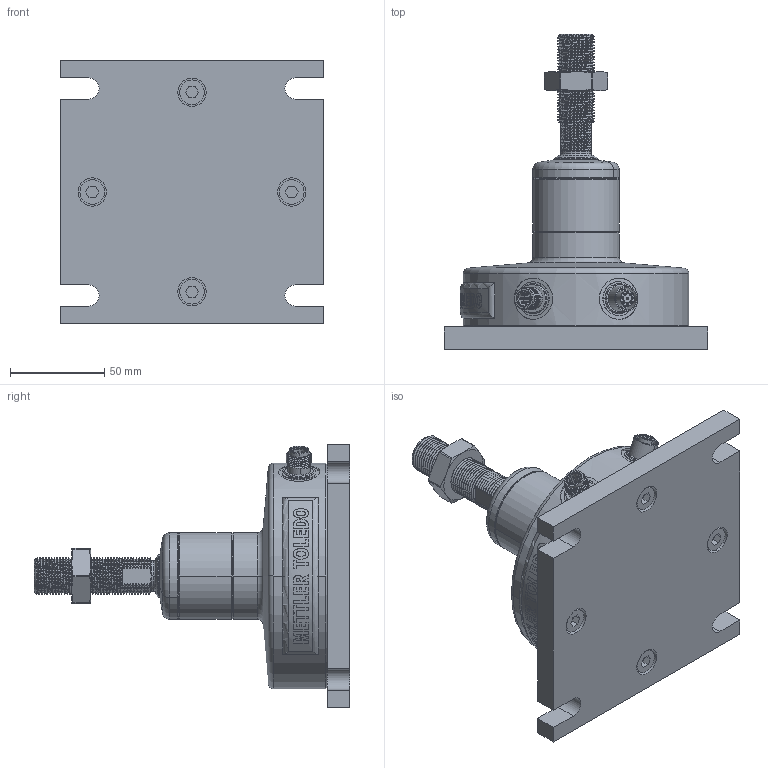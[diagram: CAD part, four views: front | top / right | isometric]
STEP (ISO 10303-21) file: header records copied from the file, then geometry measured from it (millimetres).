
FILE_DESCRIPTION((''),'2;1');
FILE_NAME('SLL210_1T_STEM','2024-07-10T21:29:07',('wang-722'),(''),'CREO PARAMETRIC BY PTC INC, 2022014','CREO PARAMETRIC BY PTC INC, 2022014','');
FILE_SCHEMA(('CONFIG_CONTROL_DESIGN'));
Products named in the file (1): SLL210_1T_STEM
Bounding box: 140 x 167.66 x 140 mm (x, y, z)
Surface area: 100569.2 mm2 (no closed solid volume)
Topology: 0 solids, 37 shells, 582 faces, 1821 edges, 1274 vertices
Faces by surface type: cylinder 228, plane 142, bspline 140, cone 42, torus 28, sphere 2
Entity records: 53948 total; most frequent: CARTESIAN_POINT 39102, ORIENTED_EDGE 3153, DIRECTION 2633, EDGE_CURVE 1817, VERTEX_POINT 1274, AXIS2_PLACEMENT_3D 982, VECTOR 669, LINE 669
